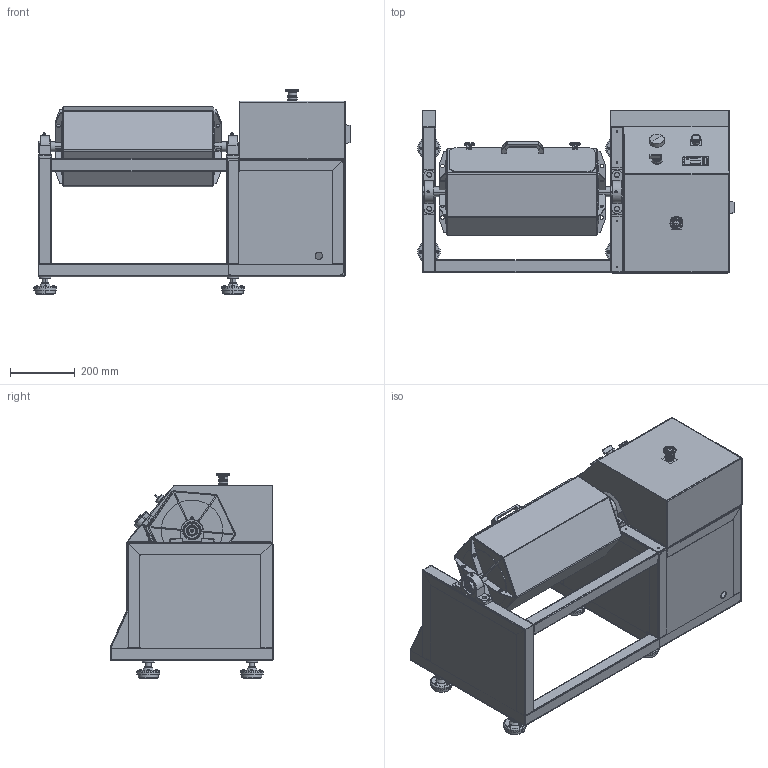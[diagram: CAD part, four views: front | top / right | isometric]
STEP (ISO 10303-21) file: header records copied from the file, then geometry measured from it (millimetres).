
FILE_DESCRIPTION((''),'2;1');
FILE_NAME('barabannay_galtovka_mag-20_3d.stp','2024-03-12T08:58:13+00:00',('none'),('none'),'','','none');
FILE_SCHEMA(('CONFIG_CONTROL_DESIGN'));
Products named in the file (1): Barabannay galtovka MAG-20 3D
Bounding box: 977 x 503 x 633.6 mm (x, y, z)
Volume: 7316703.7 mm3; surface area: 5832352.1 mm2
Topology: 89 solids, 89 shells, 2800 faces, 7035 edges, 4491 vertices
Faces by surface type: plane 1375, cylinder 956, torus 180, sphere 140, cone 115, bspline 24, extrusion 8, revolution 2
Entity records: 90748 total; most frequent: CARTESIAN_POINT 27450, ORIENTED_EDGE 13922, DIRECTION 10787, EDGE_CURVE 6961, AXIS2_PLACEMENT_3D 4505, VERTEX_POINT 4491, VECTOR 3807, LINE 3799
